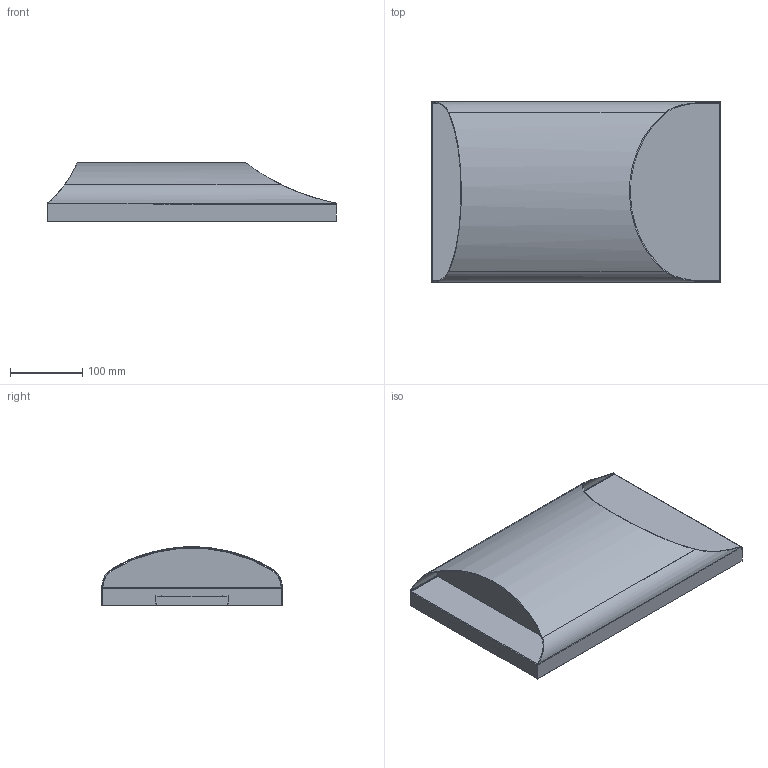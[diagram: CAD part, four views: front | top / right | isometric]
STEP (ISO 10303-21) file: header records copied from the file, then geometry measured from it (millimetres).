
FILE_DESCRIPTION(/* description */ ('APRILE_LAMPADA APPLIQUE FATTY F.E'),/* implementation_level */ '2;1');
FILE_NAME(/* name */ 'C:\Users\STEFANO\Desktop\3D SEM\1649-30 APRILE APPLIQUE FATTY F.E\SEM.000016.stp',/* time_stamp */ '2019-09-11T17:54:38+02:00',/* author */ ('STEFANO'),/* organization */ (''),/* preprocessor_version */ 'ST-DEVELOPER v17',/* originating_system */ 'Autodesk Inventor 2019',/* authorisation */ '');
FILE_SCHEMA (('AUTOMOTIVE_DESIGN { 1 0 10303 214 3 1 1 }'));
Length unit declared in the file: millimetre
Products named in the file (7): 1649-30 APRILE FATTY; PRE.005072; MET.000097; MET.005342; PLA.005041; MET.000095; MET.000095_1
Assembly tree (7 placements, depth 3):
  1649-30 APRILE FATTY
    PRE.005072
      MET.000097
      MET.005342
    PLA.005041  x2
    MET.000095
      MET.000095_1
Bounding box: 400 x 250 x 80.94 mm (x, y, z)
Volume: 2542862.7 mm3; surface area: 476840.1 mm2
Topology: 5 solids, 5 shells, 78 faces, 184 edges, 116 vertices
Faces by surface type: plane 42, cylinder 36
Entity records: 2547 total; most frequent: CARTESIAN_POINT 667, DIRECTION 358, ORIENTED_EDGE 332, EDGE_CURVE 166, AXIS2_PLACEMENT_3D 127, LINE 104, VECTOR 104, VERTEX_POINT 104
